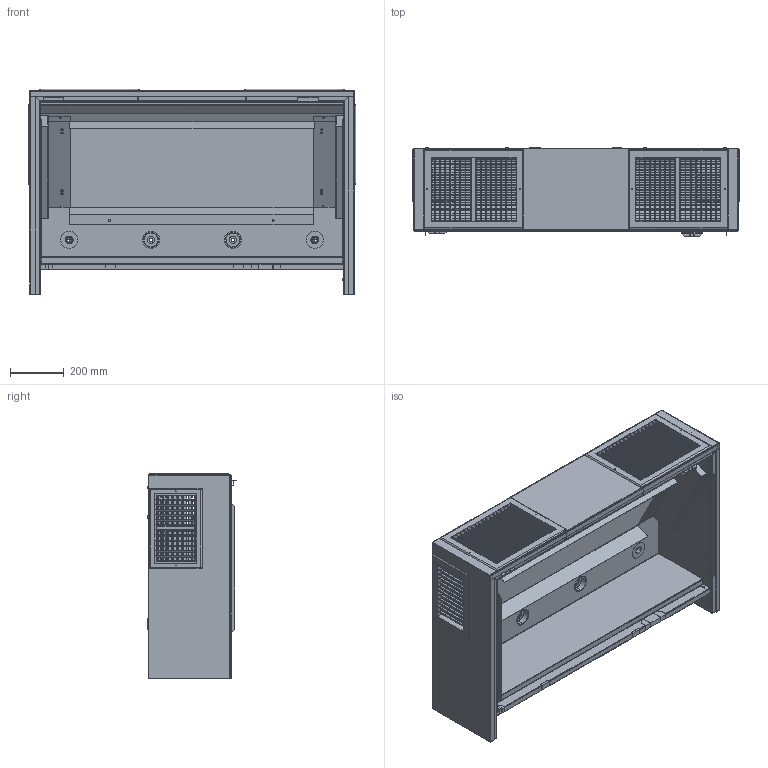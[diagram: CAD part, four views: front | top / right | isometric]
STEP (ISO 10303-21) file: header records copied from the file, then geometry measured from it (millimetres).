
FILE_DESCRIPTION (( 'STEP AP214' ), '1' );
FILE_NAME ('IPBD12HW PLENUM BOX FOR HOT WATER COIL.STEP', '2016-07-14T15:22:58', ( 'BMC' ), ( 'Bard Manufacturing Co., Inc.' ), 'SwSTEP 2.0', 'SolidWorks 2016', '' );
FILE_SCHEMA (( 'AUTOMOTIVE_DESIGN' ));
Length unit declared in the file: inch
Products named in the file (32): IPBD12HW PLENUM BOX FOR HOT WATER COIL; 112-451; 112-452; 112-453; 5451-015; 8611-016; 106-301; 136-659; 1012-086; 2010-001-713; 2010-001-721; 5021-1719; FRAME; large louver; small louver; large grille; 108-265; 114-210; Part1^515-210; 515-210; 148-127; 549-127; 134-322; 5021-1720; 5021-1724; 535-322; Copy of Part3^IPBD12HW assembly; Copy of Part4^IPBD12HW assembly; 148-126; 5021-1722; 549-126; 7051-046
Assembly tree (73 placements, depth 3):
  IPBD12HW PLENUM BOX FOR HOT WATER COIL
    112-451  x2
    112-452
    112-453
    5451-015  x2
    8611-016  x2
    106-301
    136-659  x2
    1012-086  x7
    2010-001-713  x2
    2010-001-721  x2
    5021-1719
    large grille  x2
      FRAME
      large louver
      small louver
    108-265
    515-210
      114-210
      Part1^515-210
    549-127
      148-127
    535-322
      134-322
      5021-1720
      5021-1724
    Copy of Part3^IPBD12HW assembly
    Copy of Part4^IPBD12HW assembly  x2
    549-126
      148-126
      5021-1722
    7051-046  x2
Bounding box: 1219.31 x 332.98 x 764.38 mm (x, y, z)
Surface area: 13090008.4 mm2 (no closed solid volume)
Topology: 0 solids, 135 shells, 2610 faces, 7158 edges, 4795 vertices
Faces by surface type: plane 1533, cylinder 1007, bspline 48, cone 22
Entity records: 55320 total; most frequent: CARTESIAN_POINT 17437, DIRECTION 7609, ORIENTED_EDGE 7332, EDGE_CURVE 3849, AXIS2_PLACEMENT_3D 2635, VERTEX_POINT 2551, LINE 2339, VECTOR 2339
